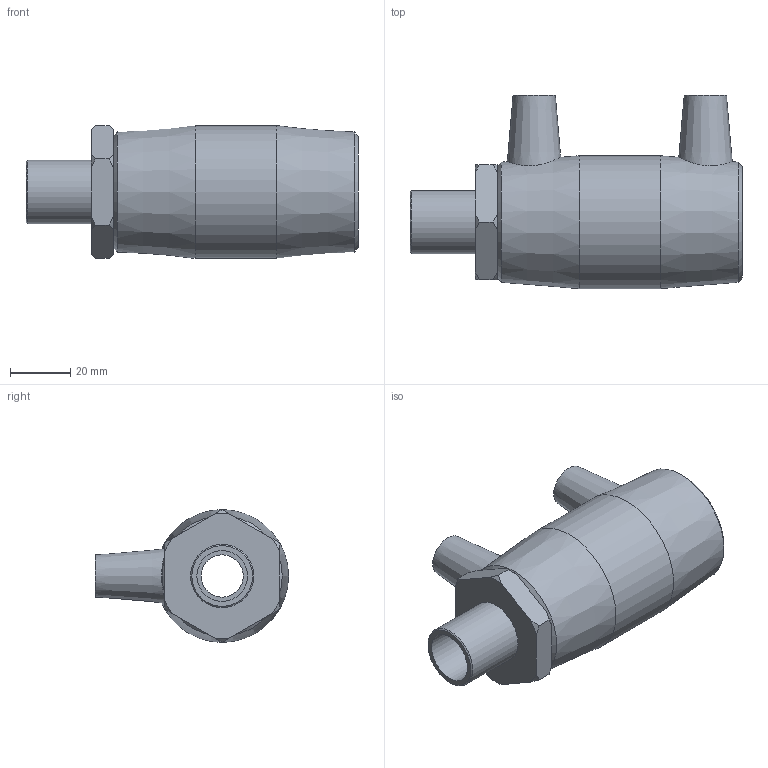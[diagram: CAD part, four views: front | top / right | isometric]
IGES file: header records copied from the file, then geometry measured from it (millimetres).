
Global section: file name: 492104032005.ipt; native system: Autodesk Inventor 2015; preprocessor: unknown; author: KIM; date: 20200202.122302; units: millimetre
Bounding box: 110 x 64 x 44 mm (x, y, z)
Volume: 93765.1 mm3; surface area: 27865.2 mm2
Topology: 1 solids, 2 shells, 54 faces, 129 edges, 88 vertices
Faces by surface type: plane 21, cone 19, revolution 8, cylinder 6
Full cylindrical faces by diameter (mm): 4 x2, 20.955 x1, 32 x2, 44 x1
